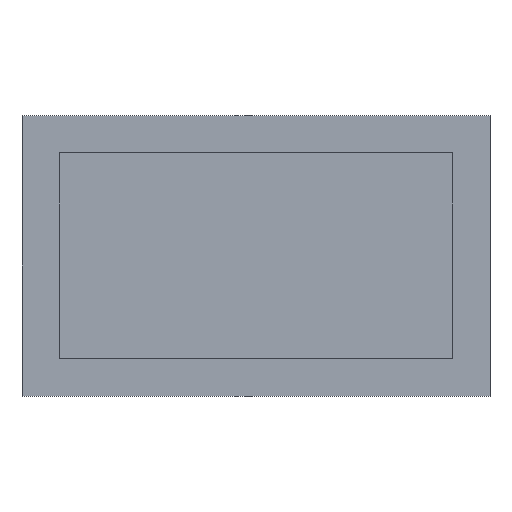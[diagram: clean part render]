
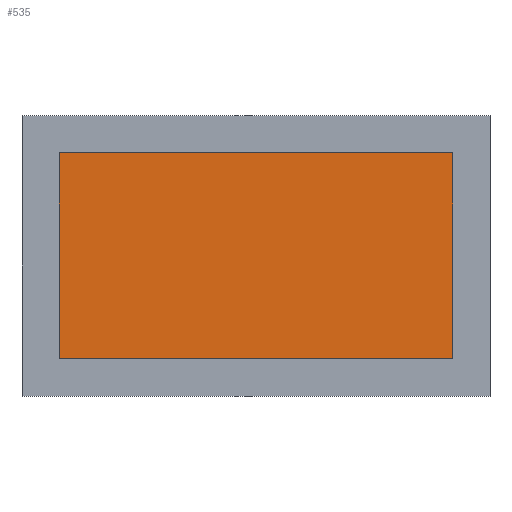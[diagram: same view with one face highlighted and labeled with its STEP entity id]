
A CAD part, top view. The second image highlights one B-rep face of the part: STEP entity #535.
In plain terms, the highlighted planar face has unit normal (0, 0, 1).
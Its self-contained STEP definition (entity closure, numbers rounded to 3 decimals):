
#366 = PLANE('',#367);
#367 = AXIS2_PLACEMENT_3D('',#368,#369,#370);
#368 = CARTESIAN_POINT('',(14.034,13.,6.834));
#369 = DIRECTION('',(0.,1.,0.));
#370 = DIRECTION('',(0.,-0.,1.));
#394 = PLANE('',#395);
#395 = AXIS2_PLACEMENT_3D('',#396,#397,#398);
#396 = CARTESIAN_POINT('',(23.,8.786,6.586));
#397 = DIRECTION('',(1.,0.,0.));
#398 = DIRECTION('',(-0.,0.,1.));
#422 = PLANE('',#423);
#423 = AXIS2_PLACEMENT_3D('',#424,#425,#426);
#424 = CARTESIAN_POINT('',(10.966,2.,6.834));
#425 = DIRECTION('',(-0.,-1.,-0.));
#426 = DIRECTION('',(0.,0.,-1.));
#448 = PLANE('',#449);
#449 = AXIS2_PLACEMENT_3D('',#450,#451,#452);
#450 = CARTESIAN_POINT('',(2.,8.786,4.014));
#451 = DIRECTION('',(-1.,-0.,-0.));
#452 = DIRECTION('',(0.,0.,-1.));
#464 = VERTEX_POINT('',#465);
#465 = CARTESIAN_POINT('',(2.,13.,9.));
#488 = VERTEX_POINT('',#489);
#489 = CARTESIAN_POINT('',(2.,2.,9.));
#510 = EDGE_CURVE('',#464,#488,#511,.T.);
#511 = SURFACE_CURVE('',#512,(#516,#523),.PCURVE_S1.);
#512 = LINE('',#513,#514);
#513 = CARTESIAN_POINT('',(2.,13.,9.));
#514 = VECTOR('',#515,1.);
#515 = DIRECTION('',(0.,-1.,0.));
#516 = PCURVE('',#448,#517);
#517 = DEFINITIONAL_REPRESENTATION('',(#518),#522);
#518 = LINE('',#519,#520);
#519 = CARTESIAN_POINT('',(-4.986,-4.214));
#520 = VECTOR('',#521,1.);
#521 = DIRECTION('',(0.,1.));
#522 = ( GEOMETRIC_REPRESENTATION_CONTEXT(2) 
PARAMETRIC_REPRESENTATION_CONTEXT() REPRESENTATION_CONTEXT('2D SPACE',''
  ) );
#523 = PCURVE('',#524,#529);
#524 = PLANE('',#525);
#525 = AXIS2_PLACEMENT_3D('',#526,#527,#528);
#526 = CARTESIAN_POINT('',(14.573,9.573,9.));
#527 = DIRECTION('',(0.,0.,1.));
#528 = DIRECTION('',(1.,0.,-0.));
#529 = DEFINITIONAL_REPRESENTATION('',(#530),#534);
#530 = LINE('',#531,#532);
#531 = CARTESIAN_POINT('',(-12.573,3.427));
#532 = VECTOR('',#533,1.);
#533 = DIRECTION('',(0.,-1.));
#534 = ( GEOMETRIC_REPRESENTATION_CONTEXT(2) 
PARAMETRIC_REPRESENTATION_CONTEXT() REPRESENTATION_CONTEXT('2D SPACE',''
  ) );
#535 = ADVANCED_FACE('',(#536),#524,.T.);
#536 = FACE_BOUND('',#537,.T.);
#537 = EDGE_LOOP('',(#538,#563,#584,#585));
#538 = ORIENTED_EDGE('',*,*,#539,.T.);
#539 = EDGE_CURVE('',#540,#542,#544,.T.);
#540 = VERTEX_POINT('',#541);
#541 = CARTESIAN_POINT('',(23.,2.,9.));
#542 = VERTEX_POINT('',#543);
#543 = CARTESIAN_POINT('',(23.,13.,9.));
#544 = SURFACE_CURVE('',#545,(#549,#556),.PCURVE_S1.);
#545 = LINE('',#546,#547);
#546 = CARTESIAN_POINT('',(23.,2.,9.));
#547 = VECTOR('',#548,1.);
#548 = DIRECTION('',(0.,1.,0.));
#549 = PCURVE('',#524,#550);
#550 = DEFINITIONAL_REPRESENTATION('',(#551),#555);
#551 = LINE('',#552,#553);
#552 = CARTESIAN_POINT('',(8.427,-7.573));
#553 = VECTOR('',#554,1.);
#554 = DIRECTION('',(0.,1.));
#555 = ( GEOMETRIC_REPRESENTATION_CONTEXT(2) 
PARAMETRIC_REPRESENTATION_CONTEXT() REPRESENTATION_CONTEXT('2D SPACE',''
  ) );
#556 = PCURVE('',#394,#557);
#557 = DEFINITIONAL_REPRESENTATION('',(#558),#562);
#558 = LINE('',#559,#560);
#559 = CARTESIAN_POINT('',(2.414,6.786));
#560 = VECTOR('',#561,1.);
#561 = DIRECTION('',(0.,-1.));
#562 = ( GEOMETRIC_REPRESENTATION_CONTEXT(2) 
PARAMETRIC_REPRESENTATION_CONTEXT() REPRESENTATION_CONTEXT('2D SPACE',''
  ) );
#563 = ORIENTED_EDGE('',*,*,#564,.F.);
#564 = EDGE_CURVE('',#464,#542,#565,.T.);
#565 = SURFACE_CURVE('',#566,(#570,#577),.PCURVE_S1.);
#566 = LINE('',#567,#568);
#567 = CARTESIAN_POINT('',(2.,13.,9.));
#568 = VECTOR('',#569,1.);
#569 = DIRECTION('',(1.,0.,0.));
#570 = PCURVE('',#524,#571);
#571 = DEFINITIONAL_REPRESENTATION('',(#572),#576);
#572 = LINE('',#573,#574);
#573 = CARTESIAN_POINT('',(-12.573,3.427));
#574 = VECTOR('',#575,1.);
#575 = DIRECTION('',(1.,0.));
#576 = ( GEOMETRIC_REPRESENTATION_CONTEXT(2) 
PARAMETRIC_REPRESENTATION_CONTEXT() REPRESENTATION_CONTEXT('2D SPACE',''
  ) );
#577 = PCURVE('',#366,#578);
#578 = DEFINITIONAL_REPRESENTATION('',(#579),#583);
#579 = LINE('',#580,#581);
#580 = CARTESIAN_POINT('',(2.166,-12.034));
#581 = VECTOR('',#582,1.);
#582 = DIRECTION('',(0.,1.));
#583 = ( GEOMETRIC_REPRESENTATION_CONTEXT(2) 
PARAMETRIC_REPRESENTATION_CONTEXT() REPRESENTATION_CONTEXT('2D SPACE',''
  ) );
#584 = ORIENTED_EDGE('',*,*,#510,.T.);
#585 = ORIENTED_EDGE('',*,*,#586,.T.);
#586 = EDGE_CURVE('',#488,#540,#587,.T.);
#587 = SURFACE_CURVE('',#588,(#592,#599),.PCURVE_S1.);
#588 = LINE('',#589,#590);
#589 = CARTESIAN_POINT('',(2.,2.,9.));
#590 = VECTOR('',#591,1.);
#591 = DIRECTION('',(1.,0.,0.));
#592 = PCURVE('',#524,#593);
#593 = DEFINITIONAL_REPRESENTATION('',(#594),#598);
#594 = LINE('',#595,#596);
#595 = CARTESIAN_POINT('',(-12.573,-7.573));
#596 = VECTOR('',#597,1.);
#597 = DIRECTION('',(1.,0.));
#598 = ( GEOMETRIC_REPRESENTATION_CONTEXT(2) 
PARAMETRIC_REPRESENTATION_CONTEXT() REPRESENTATION_CONTEXT('2D SPACE',''
  ) );
#599 = PCURVE('',#422,#600);
#600 = DEFINITIONAL_REPRESENTATION('',(#601),#605);
#601 = LINE('',#602,#603);
#602 = CARTESIAN_POINT('',(-2.166,-8.966));
#603 = VECTOR('',#604,1.);
#604 = DIRECTION('',(0.,1.));
#605 = ( GEOMETRIC_REPRESENTATION_CONTEXT(2) 
PARAMETRIC_REPRESENTATION_CONTEXT() REPRESENTATION_CONTEXT('2D SPACE',''
  ) );
